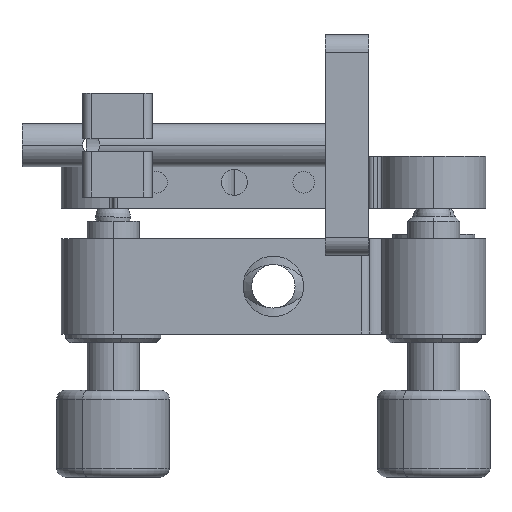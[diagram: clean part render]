
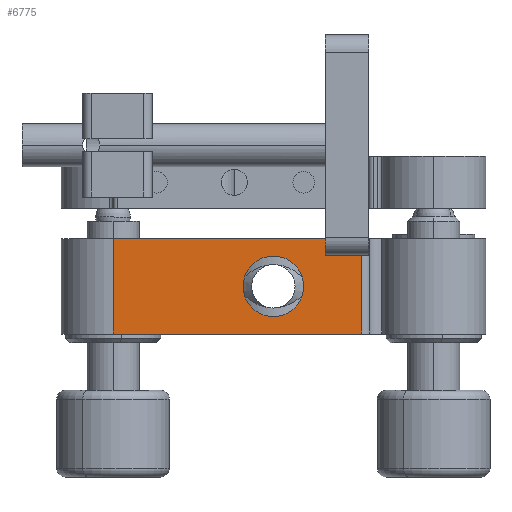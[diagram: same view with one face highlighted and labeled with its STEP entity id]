
A CAD part, left-side view. The second image highlights one B-rep face of the part: STEP entity #6775.
In plain terms, the highlighted planar face has unit normal (-1, 0, 0).
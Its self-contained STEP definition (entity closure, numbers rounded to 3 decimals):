
#49 = DIRECTION ( 'NONE',  ( -1., 0., 0. ) ) ;
#76 = AXIS2_PLACEMENT_3D ( 'NONE', #9996, #49, #4074 ) ;
#254 = LINE ( 'NONE', #2531, #12364 ) ;
#819 = VERTEX_POINT ( 'NONE', #8194 ) ;
#909 = PLANE ( 'NONE',  #2554 ) ;
#913 = CARTESIAN_POINT ( 'NONE',  ( 12.5, 18.5, 0. ) ) ;
#1743 = EDGE_CURVE ( 'NONE', #819, #10862, #9171, .T. ) ;
#1892 = CARTESIAN_POINT ( 'NONE',  ( 12.5, 3.5, 5.5 ) ) ;
#2230 = LINE ( 'NONE', #6386, #2395 ) ;
#2313 = DIRECTION ( 'NONE',  ( 0., 0., 1. ) ) ;
#2395 = VECTOR ( 'NONE', #2515, 1000. ) ;
#2470 = EDGE_LOOP ( 'NONE', ( #12013, #3047, #11127, #2979 ) ) ;
#2515 = DIRECTION ( 'NONE',  ( 0., 1., 0. ) ) ;
#2531 = CARTESIAN_POINT ( 'NONE',  ( 12.5, -10.209, 0. ) ) ;
#2554 = AXIS2_PLACEMENT_3D ( 'NONE', #5931, #9893, #10858 ) ;
#2954 = DIRECTION ( 'NONE',  ( 0., -1., 0. ) ) ;
#2979 = ORIENTED_EDGE ( 'NONE', *, *, #10556, .F. ) ;
#3047 = ORIENTED_EDGE ( 'NONE', *, *, #10574, .T. ) ;
#3637 = LINE ( 'NONE', #4510, #10101 ) ;
#4074 = DIRECTION ( 'NONE',  ( 0., -1., 0. ) ) ;
#4510 = CARTESIAN_POINT ( 'NONE',  ( 12.5, 18.5, 0. ) ) ;
#4620 = ORIENTED_EDGE ( 'NONE', *, *, #1743, .F. ) ;
#4944 = FACE_BOUND ( 'NONE', #8899, .T. ) ;
#5402 = LINE ( 'NONE', #5519, #11522 ) ;
#5519 = CARTESIAN_POINT ( 'NONE',  ( 12.5, 24.5, 0. ) ) ;
#5931 = CARTESIAN_POINT ( 'NONE',  ( 12.5, 24.5, 0. ) ) ;
#6257 = VERTEX_POINT ( 'NONE', #8075 ) ;
#6265 = VERTEX_POINT ( 'NONE', #8208 ) ;
#6386 = CARTESIAN_POINT ( 'NONE',  ( 12.5, 24.5, 11. ) ) ;
#6499 = EDGE_CURVE ( 'NONE', #6257, #8916, #5402, .T. ) ;
#6775 = ADVANCED_FACE ( 'NONE', ( #4944, #11219 ), #909, .F. ) ;
#6795 = DIRECTION ( 'NONE',  ( -1., 0., 0. ) ) ;
#7325 = CARTESIAN_POINT ( 'NONE',  ( 12.5, 18.5, 11. ) ) ;
#8075 = CARTESIAN_POINT ( 'NONE',  ( 12.5, -10.209, 0. ) ) ;
#8194 = CARTESIAN_POINT ( 'NONE',  ( 12.5, -3.5, 5.5 ) ) ;
#8208 = CARTESIAN_POINT ( 'NONE',  ( 12.5, -10.209, 11. ) ) ;
#8848 = CARTESIAN_POINT ( 'NONE',  ( 12.5, 0., 5.5 ) ) ;
#8899 = EDGE_LOOP ( 'NONE', ( #4620, #10372 ) ) ;
#8916 = VERTEX_POINT ( 'NONE', #913 ) ;
#9171 = CIRCLE ( 'NONE', #76, 3.5 ) ;
#9893 = DIRECTION ( 'NONE',  ( 1., 0., 0. ) ) ;
#9996 = CARTESIAN_POINT ( 'NONE',  ( 12.5, 0., 5.5 ) ) ;
#10101 = VECTOR ( 'NONE', #2313, 1000. ) ;
#10141 = DIRECTION ( 'NONE',  ( 0., 0., 1. ) ) ;
#10372 = ORIENTED_EDGE ( 'NONE', *, *, #10865, .F. ) ;
#10556 = EDGE_CURVE ( 'NONE', #8916, #11858, #3637, .T. ) ;
#10574 = EDGE_CURVE ( 'NONE', #6257, #6265, #254, .T. ) ;
#10654 = AXIS2_PLACEMENT_3D ( 'NONE', #8848, #6795, #2954 ) ;
#10858 = DIRECTION ( 'NONE',  ( 0., 1., 0. ) ) ;
#10862 = VERTEX_POINT ( 'NONE', #1892 ) ;
#10865 = EDGE_CURVE ( 'NONE', #10862, #819, #11133, .T. ) ;
#11127 = ORIENTED_EDGE ( 'NONE', *, *, #11252, .T. ) ;
#11133 = CIRCLE ( 'NONE', #10654, 3.5 ) ;
#11219 = FACE_OUTER_BOUND ( 'NONE', #2470, .T. ) ;
#11252 = EDGE_CURVE ( 'NONE', #6265, #11858, #2230, .T. ) ;
#11522 = VECTOR ( 'NONE', #12443, 1000. ) ;
#11858 = VERTEX_POINT ( 'NONE', #7325 ) ;
#12013 = ORIENTED_EDGE ( 'NONE', *, *, #6499, .F. ) ;
#12364 = VECTOR ( 'NONE', #10141, 1000. ) ;
#12443 = DIRECTION ( 'NONE',  ( 0., 1., 0. ) ) ;
